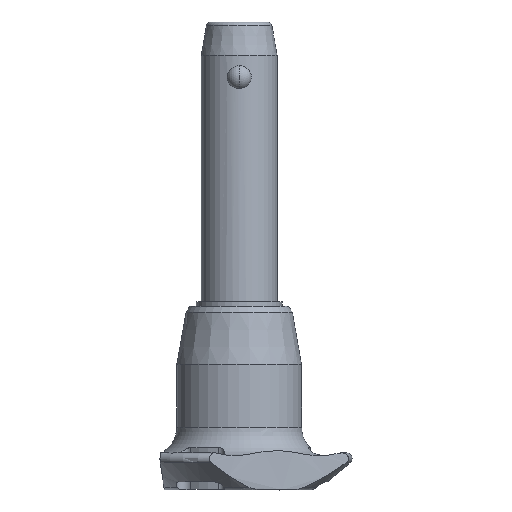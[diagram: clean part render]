
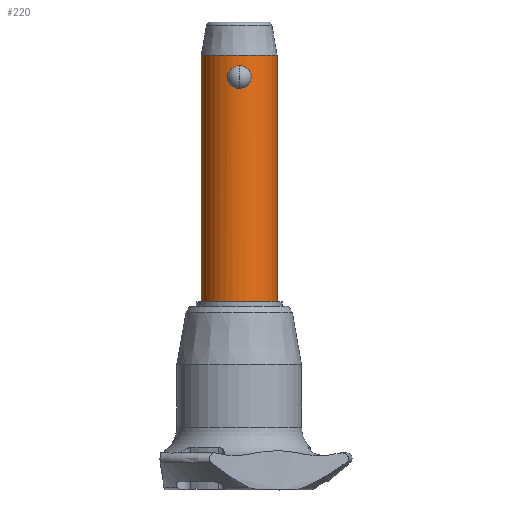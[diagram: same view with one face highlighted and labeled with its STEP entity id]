
A CAD part, front view. The second image highlights one B-rep face of the part: STEP entity #220.
In plain terms, the highlighted cylindrical face has radius 8 mm (diameter 16 mm), a partial arc.
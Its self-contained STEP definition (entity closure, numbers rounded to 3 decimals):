
#20 = B_SPLINE_CURVE_WITH_KNOTS ( 'NONE', 3,
 ( #2570, #1468, #140, #365, #584, #1713, #182, #1501, #831, #2349, #1252, #154, #1041, #2799, #601, #814, #1696, #1483, #2365, #385, #2150, #617, #1280, #1070, #2380, #398, #1942, #2830, #2213, #1767 ),
 .UNSPECIFIED., .F., .F.,
 ( 4, 2, 2, 2, 2, 2, 2, 2, 2, 2, 2, 2, 2, 2, 4 ),
 ( 0.008, 0.009, 0.009, 0.01, 0.01, 0.011, 0.011, 0.012, 0.012, 0.013, 0.014, 0.014, 0.015, 0.015, 0.016 ),
 .UNSPECIFIED. ) ;
#22 = CARTESIAN_POINT ( 'NONE',  ( -0.164, -8., 4.775 ) ) ;
#38 = CARTESIAN_POINT ( 'NONE',  ( -0.803, -7.961, 4.661 ) ) ;
#96 = VERTEX_POINT ( 'NONE', #919 ) ;
#140 = CARTESIAN_POINT ( 'NONE',  ( 0.652, -7.979, 0.058 ) ) ;
#154 = CARTESIAN_POINT ( 'NONE',  ( 2.408, -7.629, 1.586 ) ) ;
#182 = CARTESIAN_POINT ( 'NONE',  ( 1.657, -7.827, 0.558 ) ) ;
#220 = ADVANCED_FACE ( 'NONE', ( #2575, #1061 ), #2369, .T. ) ;
#242 = CARTESIAN_POINT ( 'NONE',  ( -1.658, -7.827, 4.216 ) ) ;
#253 = CARTESIAN_POINT ( 'NONE',  ( -0.324, -8., 0. ) ) ;
#268 = CARTESIAN_POINT ( 'NONE',  ( -1.252, -7.903, 4.479 ) ) ;
#365 = CARTESIAN_POINT ( 'NONE',  ( 1.105, -7.925, 0.226 ) ) ;
#385 = CARTESIAN_POINT ( 'NONE',  ( 2.211, -7.69, 3.626 ) ) ;
#398 = CARTESIAN_POINT ( 'NONE',  ( 0.804, -7.961, 4.661 ) ) ;
#403 = CARTESIAN_POINT ( 'NONE',  ( -8., 0., 7. ) ) ;
#460 = CARTESIAN_POINT ( 'NONE',  ( -2.016, -7.746, 0.883 ) ) ;
#471 = CARTESIAN_POINT ( 'NONE',  ( -2.411, -7.628, 1.592 ) ) ;
#478 = AXIS2_PLACEMENT_3D ( 'NONE', #1509, #1774, #884 ) ;
#487 = CARTESIAN_POINT ( 'NONE',  ( -2.529, -7.59, 2.064 ) ) ;
#502 = AXIS2_PLACEMENT_3D ( 'NONE', #1135, #1565, #2010 ) ;
#524 = ORIENTED_EDGE ( 'NONE', *, *, #802, .F. ) ;
#584 = CARTESIAN_POINT ( 'NONE',  ( 1.252, -7.903, 0.296 ) ) ;
#601 = CARTESIAN_POINT ( 'NONE',  ( 2.546, -7.584, 2.22 ) ) ;
#607 = CARTESIAN_POINT ( 'NONE',  ( 8., 0., -45. ) ) ;
#617 = CARTESIAN_POINT ( 'NONE',  ( 1.66, -7.827, 4.215 ) ) ;
#631 = VERTEX_POINT ( 'NONE', #872 ) ;
#661 = CARTESIAN_POINT ( 'NONE',  ( 0., -8., 0. ) ) ;
#693 = CARTESIAN_POINT ( 'NONE',  ( -2.529, -7.59, 2.716 ) ) ;
#694 = CARTESIAN_POINT ( 'NONE',  ( -8., 0., -45. ) ) ;
#707 = CARTESIAN_POINT ( 'NONE',  ( -0.645, -7.976, 4.704 ) ) ;
#753 = ORIENTED_EDGE ( 'NONE', *, *, #1079, .T. ) ;
#771 = ORIENTED_EDGE ( 'NONE', *, *, #2441, .F. ) ;
#802 = EDGE_CURVE ( 'NONE', #96, #1622, #1846, .T. ) ;
#814 = CARTESIAN_POINT ( 'NONE',  ( 2.547, -7.584, 2.549 ) ) ;
#831 = CARTESIAN_POINT ( 'NONE',  ( 2.004, -7.746, 0.894 ) ) ;
#872 = CARTESIAN_POINT ( 'NONE',  ( 8., 0., 7. ) ) ;
#884 = DIRECTION ( 'NONE',  ( 1., 0., 0. ) ) ;
#914 = CARTESIAN_POINT ( 'NONE',  ( -1.254, -7.902, 0.297 ) ) ;
#919 = CARTESIAN_POINT ( 'NONE',  ( -8., 0., -45. ) ) ;
#931 = CARTESIAN_POINT ( 'NONE',  ( 0., -8., 0. ) ) ;
#936 = AXIS2_PLACEMENT_3D ( 'NONE', #1488, #1701, #1505 ) ;
#946 = CARTESIAN_POINT ( 'NONE',  ( -1.107, -7.924, 4.548 ) ) ;
#1007 = EDGE_CURVE ( 'NONE', #2698, #2017, #1730, .T. ) ;
#1041 = CARTESIAN_POINT ( 'NONE',  ( 2.46, -7.613, 1.742 ) ) ;
#1061 = FACE_BOUND ( 'NONE', #2559, .T. ) ;
#1070 = CARTESIAN_POINT ( 'NONE',  ( 1.253, -7.903, 4.478 ) ) ;
#1073 = VECTOR ( 'NONE', #1573, 1000. ) ;
#1079 = EDGE_CURVE ( 'NONE', #1630, #631, #1849, .T. ) ;
#1131 = CARTESIAN_POINT ( 'NONE',  ( -2.276, -7.67, 3.482 ) ) ;
#1135 = CARTESIAN_POINT ( 'NONE',  ( 0., 0., 7. ) ) ;
#1144 = CARTESIAN_POINT ( 'NONE',  ( -2.003, -7.746, 3.882 ) ) ;
#1147 = DIRECTION ( 'NONE',  ( 0., 0., 1. ) ) ;
#1157 = CARTESIAN_POINT ( 'NONE',  ( -0.326, -7.995, 4.761 ) ) ;
#1252 = CARTESIAN_POINT ( 'NONE',  ( 2.275, -7.67, 1.291 ) ) ;
#1280 = CARTESIAN_POINT ( 'NONE',  ( 1.529, -7.854, 4.312 ) ) ;
#1344 = CARTESIAN_POINT ( 'NONE',  ( -1.896, -7.773, 4.001 ) ) ;
#1357 = CARTESIAN_POINT ( 'NONE',  ( -1.527, -7.854, 4.313 ) ) ;
#1371 = CARTESIAN_POINT ( 'NONE',  ( -2.211, -7.69, 1.148 ) ) ;
#1468 = CARTESIAN_POINT ( 'NONE',  ( 0.324, -8., 0. ) ) ;
#1483 = CARTESIAN_POINT ( 'NONE',  ( 2.461, -7.612, 3.027 ) ) ;
#1488 = CARTESIAN_POINT ( 'NONE',  ( 0., 0., -45. ) ) ;
#1501 = CARTESIAN_POINT ( 'NONE',  ( 1.894, -7.773, 0.773 ) ) ;
#1505 = DIRECTION ( 'NONE',  ( 1., 0., 0. ) ) ;
#1509 = CARTESIAN_POINT ( 'NONE',  ( 0., 0., -45. ) ) ;
#1565 = DIRECTION ( 'NONE',  ( 0., 0., -1. ) ) ;
#1572 = CARTESIAN_POINT ( 'NONE',  ( -0.652, -7.979, 0.058 ) ) ;
#1573 = DIRECTION ( 'NONE',  ( 0., 0., 1. ) ) ;
#1588 = CARTESIAN_POINT ( 'NONE',  ( -2.408, -7.629, 3.189 ) ) ;
#1622 = VERTEX_POINT ( 'NONE', #403 ) ;
#1630 = VERTEX_POINT ( 'NONE', #607 ) ;
#1636 = CIRCLE ( 'NONE', #478, 8. ) ;
#1654 = ORIENTED_EDGE ( 'NONE', *, *, #2136, .T. ) ;
#1688 = ORIENTED_EDGE ( 'NONE', *, *, #1007, .F. ) ;
#1696 = CARTESIAN_POINT ( 'NONE',  ( 2.529, -7.59, 2.71 ) ) ;
#1701 = DIRECTION ( 'NONE',  ( 0., 0., 1. ) ) ;
#1713 = CARTESIAN_POINT ( 'NONE',  ( 1.529, -7.854, 0.463 ) ) ;
#1730 = B_SPLINE_CURVE_WITH_KNOTS ( 'NONE', 3,
 ( #1800, #22, #1157, #707, #38, #946, #268, #1357, #242, #1344, #1144, #2690, #1131, #1588, #2459, #693, #1787, #2253, #487, #2477, #471, #1371, #460, #2239, #2007, #914, #2677, #1572, #253, #931 ),
 .UNSPECIFIED., .F., .F.,
 ( 4, 2, 2, 2, 2, 2, 2, 2, 2, 2, 2, 2, 2, 2, 4 ),
 ( 0., 0., 0.001, 0.001, 0.002, 0.002, 0.003, 0.003, 0.004, 0.004, 0.005, 0.006, 0.006, 0.007, 0.008 ),
 .UNSPECIFIED. ) ;
#1767 = CARTESIAN_POINT ( 'NONE',  ( 0., -8., 4.775 ) ) ;
#1774 = DIRECTION ( 'NONE',  ( 0., 0., -1. ) ) ;
#1787 = CARTESIAN_POINT ( 'NONE',  ( -2.546, -7.584, 2.553 ) ) ;
#1800 = CARTESIAN_POINT ( 'NONE',  ( 0., -8., 4.775 ) ) ;
#1844 = EDGE_LOOP ( 'NONE', ( #524, #2708, #753, #1654 ) ) ;
#1846 = LINE ( 'NONE', #694, #1073 ) ;
#1849 = LINE ( 'NONE', #2494, #2741 ) ;
#1942 = CARTESIAN_POINT ( 'NONE',  ( 0.645, -7.976, 4.704 ) ) ;
#1978 = CARTESIAN_POINT ( 'NONE',  ( 0., -8., 4.775 ) ) ;
#2007 = CARTESIAN_POINT ( 'NONE',  ( -1.53, -7.854, 0.464 ) ) ;
#2010 = DIRECTION ( 'NONE',  ( 1., 0., 0. ) ) ;
#2017 = VERTEX_POINT ( 'NONE', #661 ) ;
#2120 = CIRCLE ( 'NONE', #502, 8. ) ;
#2136 = EDGE_CURVE ( 'NONE', #631, #1622, #2120, .T. ) ;
#2150 = CARTESIAN_POINT ( 'NONE',  ( 2.016, -7.746, 3.891 ) ) ;
#2213 = CARTESIAN_POINT ( 'NONE',  ( 0.164, -8., 4.775 ) ) ;
#2239 = CARTESIAN_POINT ( 'NONE',  ( -1.659, -7.827, 0.559 ) ) ;
#2253 = CARTESIAN_POINT ( 'NONE',  ( -2.547, -7.584, 2.229 ) ) ;
#2349 = CARTESIAN_POINT ( 'NONE',  ( 2.194, -7.694, 1.153 ) ) ;
#2365 = CARTESIAN_POINT ( 'NONE',  ( 2.41, -7.629, 3.184 ) ) ;
#2369 = CYLINDRICAL_SURFACE ( 'NONE', #936, 8. ) ;
#2380 = CARTESIAN_POINT ( 'NONE',  ( 1.108, -7.924, 4.548 ) ) ;
#2441 = EDGE_CURVE ( 'NONE', #2017, #2698, #20, .T. ) ;
#2459 = CARTESIAN_POINT ( 'NONE',  ( -2.459, -7.613, 3.036 ) ) ;
#2477 = CARTESIAN_POINT ( 'NONE',  ( -2.461, -7.612, 1.746 ) ) ;
#2494 = CARTESIAN_POINT ( 'NONE',  ( 8., 0., -45. ) ) ;
#2559 = EDGE_LOOP ( 'NONE', ( #1688, #771 ) ) ;
#2570 = CARTESIAN_POINT ( 'NONE',  ( 0., -8., 0. ) ) ;
#2575 = FACE_OUTER_BOUND ( 'NONE', #1844, .T. ) ;
#2677 = CARTESIAN_POINT ( 'NONE',  ( -1.106, -7.925, 0.226 ) ) ;
#2690 = CARTESIAN_POINT ( 'NONE',  ( -2.193, -7.694, 3.623 ) ) ;
#2698 = VERTEX_POINT ( 'NONE', #1978 ) ;
#2708 = ORIENTED_EDGE ( 'NONE', *, *, #2746, .F. ) ;
#2741 = VECTOR ( 'NONE', #1147, 1000. ) ;
#2746 = EDGE_CURVE ( 'NONE', #1630, #96, #1636, .T. ) ;
#2799 = CARTESIAN_POINT ( 'NONE',  ( 2.528, -7.59, 2.058 ) ) ;
#2830 = CARTESIAN_POINT ( 'NONE',  ( 0.326, -7.995, 4.761 ) ) ;
